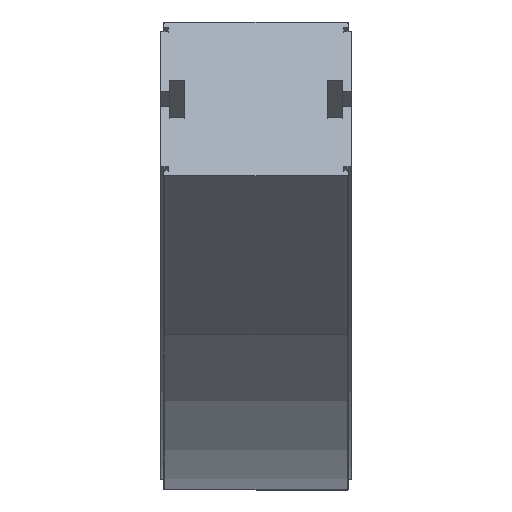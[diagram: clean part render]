
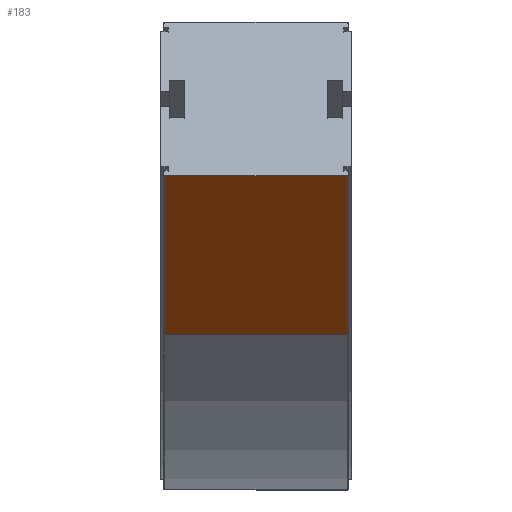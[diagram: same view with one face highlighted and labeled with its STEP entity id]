
A CAD part, top view. The second image highlights one B-rep face of the part: STEP entity #183.
In plain terms, the highlighted planar face has unit normal (0, -0.866, 0.5).
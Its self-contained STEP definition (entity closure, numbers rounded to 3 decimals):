
#183 = ADVANCED_FACE ( 'NONE', ( #2746 ), #2578, .F. ) ;
#549 = VECTOR ( 'NONE', #1985, 1000. ) ;
#555 = VECTOR ( 'NONE', #1979, 1000. ) ;
#557 = VECTOR ( 'NONE', #1977, 1000. ) ;
#558 = LINE ( 'NONE', #1978, #555 ) ;
#559 = VECTOR ( 'NONE', #1976, 1000. ) ;
#560 = LINE ( 'NONE', #1969, #549 ) ;
#562 = LINE ( 'NONE', #1974, #559 ) ;
#566 = LINE ( 'NONE', #1963, #557 ) ;
#821 = EDGE_CURVE ( 'NONE', #2966, #2990, #562, .T. ) ;
#822 = EDGE_CURVE ( 'NONE', #852, #2966, #566, .T. ) ;
#823 = EDGE_CURVE ( 'NONE', #852, #2988, #558, .T. ) ;
#826 = EDGE_CURVE ( 'NONE', #2988, #2990, #560, .T. ) ;
#852 = VERTEX_POINT ( 'NONE', #2031 ) ;
#1358 = ORIENTED_EDGE ( 'NONE', *, *, #826, .F. ) ;
#1359 = ORIENTED_EDGE ( 'NONE', *, *, #821, .T. ) ;
#1360 = ORIENTED_EDGE ( 'NONE', *, *, #822, .T. ) ;
#1361 = ORIENTED_EDGE ( 'NONE', *, *, #823, .F. ) ;
#1963 = CARTESIAN_POINT ( 'NONE',  ( 43.15, 30.614, 421. ) ) ;
#1969 = CARTESIAN_POINT ( 'NONE',  ( -43.15, 30.614, 421. ) ) ;
#1974 = CARTESIAN_POINT ( 'NONE',  ( -43.15, 105.614, 550.904 ) ) ;
#1976 = DIRECTION ( 'NONE',  ( -1., 0., 0. ) ) ;
#1977 = DIRECTION ( 'NONE',  ( 0., 0.5, 0.866 ) ) ;
#1978 = CARTESIAN_POINT ( 'NONE',  ( -43.15, 30.614, 421. ) ) ;
#1979 = DIRECTION ( 'NONE',  ( -1., 0., 0. ) ) ;
#1985 = DIRECTION ( 'NONE',  ( 0., 0.5, 0.866 ) ) ;
#2031 = CARTESIAN_POINT ( 'NONE',  ( 43.15, 30.614, 421. ) ) ;
#2186 = CARTESIAN_POINT ( 'NONE',  ( 43.15, 105.614, 550.904 ) ) ;
#2208 = CARTESIAN_POINT ( 'NONE',  ( -43.15, 30.614, 421. ) ) ;
#2210 = CARTESIAN_POINT ( 'NONE',  ( -43.15, 105.614, 550.904 ) ) ;
#2571 = DIRECTION ( 'NONE',  ( 0., 0.5, 0.866 ) ) ;
#2572 = DIRECTION ( 'NONE',  ( 0., 0.866, -0.5 ) ) ;
#2577 = CARTESIAN_POINT ( 'NONE',  ( -43.15, 30.614, 421. ) ) ;
#2578 = PLANE ( 'NONE',  #3112 ) ;
#2746 = FACE_OUTER_BOUND ( 'NONE', #2840, .T. ) ;
#2840 = EDGE_LOOP ( 'NONE', ( #1361, #1360, #1359, #1358 ) ) ;
#2966 = VERTEX_POINT ( 'NONE', #2186 ) ;
#2988 = VERTEX_POINT ( 'NONE', #2208 ) ;
#2990 = VERTEX_POINT ( 'NONE', #2210 ) ;
#3112 = AXIS2_PLACEMENT_3D ( 'NONE', #2577, #2572, #2571 ) ;
